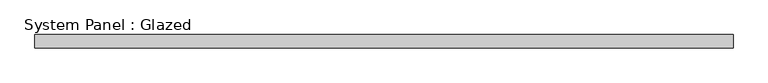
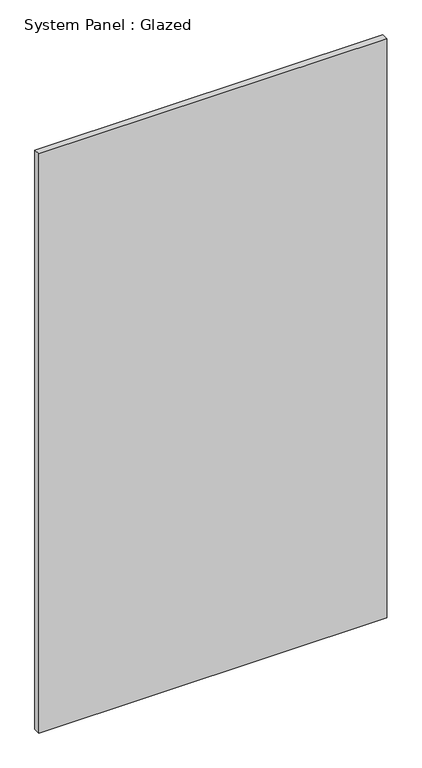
"""IFC4 building model written with IfcOpenShell, lengths in millimetres: plate geometry, System Panel : Glazed."""

from ifc_helpers import new_model, si_unit, origin, origin_with_axes, place, context, project, spatial, polyline, outline, extrude, source, transform, mapped, element, save


def system_panel_glazed_d581efc4(model_context):
    return source(origin(), model_context, "Body", "SweptSolid", [
        extrude(outline(polyline([(660.8099812, 24.5), (-660.8099812, 24.5), (-660.8099812, 49.5), (660.8099812, 49.5), (660.8099812, 24.5)])), origin_with_axes(), (0.0, 0.0, 1.0), 2325.0),
    ])


if __name__ == "__main__":
    model = new_model("IFC4")
    model_context = context("Model", 3, world=origin())
    ifc_project = project(units=[si_unit("LENGTHUNIT", "METRE", prefix="MILLI")], contexts=[model_context])
    site = spatial("IfcSite", under=ifc_project)
    building = spatial("IfcBuilding", under=site)
    placement = place(None, origin())
    system_panel_glazed_shape = system_panel_glazed_d581efc4(model_context)
    element("IfcPlate", 1, ObjectType="System Panel : Glazed", at=placement, inside=building, context=model_context, shape_type="MappedRepresentation", body=[
        mapped(system_panel_glazed_shape, transform((0.0, 0.0, 0.0), x_axis=(1.0, 0.0, 0.0), y_axis=(0.0, 1.0, 0.0), z_axis=(0.0, 0.0, 1.0))),
    ])
    save(model, "model.ifc")
